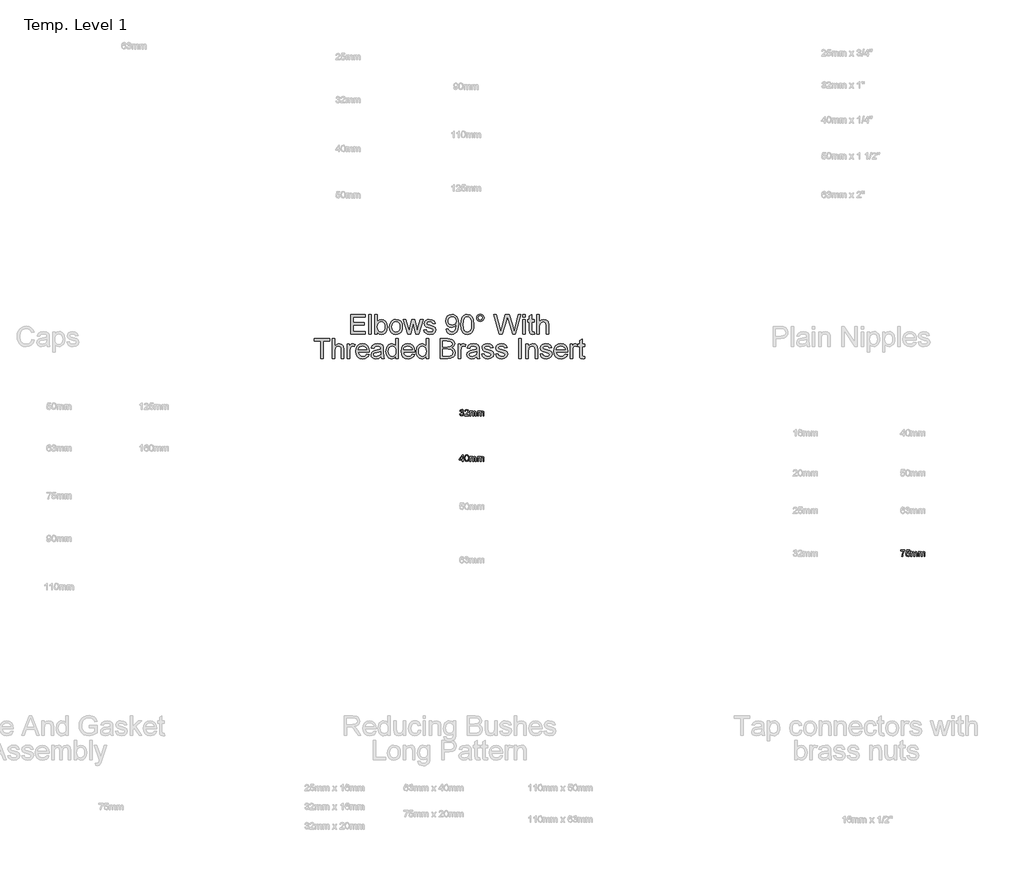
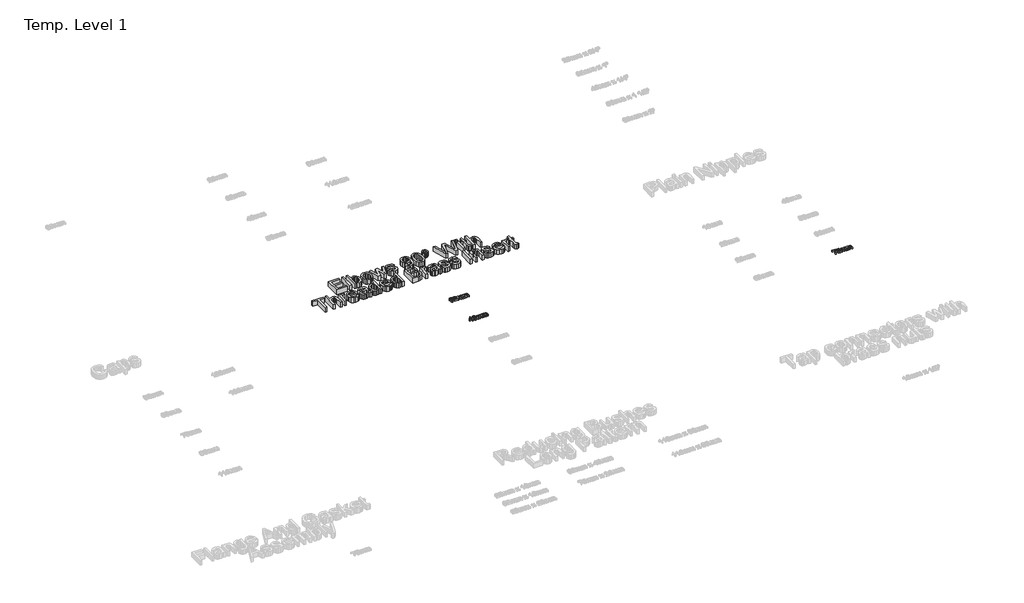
# One storey, part 52 of 62: 4 proxies.
"""IFC4 building model written with IfcOpenShell, lengths in millimetres."""

from ifc_helpers import new_model, si_unit, origin, origin_with_axes, place, context, project, spatial, polyline, outline, extrude, element, save

model = new_model("IFC4")

# Units and contexts
model_context = context("Model", 3, world=origin())
ifc_project = project(units=[si_unit("LENGTHUNIT", "METRE", prefix="MILLI")], contexts=[model_context])

# Site, building, storey
site = spatial("IfcSite", under=ifc_project)
building = spatial("IfcBuilding", under=site)
storey = spatial("IfcBuildingStorey", under=building, Name="Temp. Level 1", Elevation=0.0)

# Proxies
placement = place(None, origin())
element("IfcBuildingElementProxy", 1, Name="150mm Arial", ObjectType="150mm Arial", at=placement, inside=storey, context=model_context, shape_type="SweptSolid", body=[
    extrude(outline(polyline([(23683.0407135, -979.0446709), (23683.0407135, -831.3523632), (23789.1945596, -831.3523632), (23789.1945596, -849.8139016), (23701.5022519, -849.8139016), (23701.5022519, -893.6600555), (23784.579175, -893.6600555), (23784.579175, -912.1215939), (23701.5022519, -912.1215939), (23701.5022519, -960.5831324), (23791.5022519, -960.5831324), (23791.5022519, -979.0446709), (23683.0407135, -979.0446709)])), origin_with_axes(), (0.0, 0.0, 1.0), 50.0),
    extrude(outline(polyline([(23816.8868673, -979.0446709), (23816.8868673, -831.3523632), (23835.3484058, -831.3523632), (23835.3484058, -979.0446709), (23816.8868673, -979.0446709)])), origin_with_axes(), (0.0, 0.0, 1.0), 50.0),
    extrude(outline(polyline([(23881.5022519, -979.0446709), (23863.0407135, -979.0446709), (23863.0407135, -831.3523632), (23881.5022519, -831.3523632), (23881.5022519, -886.1239978), (23894.4289346, -872.7375795), (23910.4926365, -868.2754401), (23928.9902327, -872.2958728), (23943.3411942, -883.5999593), (23952.1573, -901.1780843), (23955.3484058, -923.1913055), (23952.0446197, -947.8367382), (23942.1332615, -966.1720747), (23927.5884899, -977.5572911), (23910.3844635, -981.3523632), (23893.969199, -976.4575314), (23881.5022519, -961.7730362), (23881.5022519, -979.0446709)]), holes=[polyline([(23881.5022519, -924.0566901), (23882.7642712, -939.4533247), (23886.5503288, -949.8739978), (23896.2228048, -959.636618), (23908.797925, -962.8908247), (23919.4529731, -960.4929882), (23928.5575404, -953.2994786), (23934.8045356, -941.355368), (23936.8868673, -924.7057286), (23934.8901726, -907.8126997), (23928.9000885, -896.0038055), (23920.0794755, -889.0536853), (23909.5911942, -886.7369786), (23898.9361462, -889.1348151), (23889.8315788, -896.3283247), (23883.5845837, -908.0560891), (23881.5022519, -924.0566901)])]), origin_with_axes(), (0.0, 0.0, 1.0), 50.0),
    extrude(outline(polyline([(23971.5022519, -924.8139016), (23975.4956413, -898.6630603), (23987.4758096, -880.2826516), (24002.2774923, -871.277243), (24019.9998481, -868.2754401), (24039.3943793, -871.9307887), (24054.8856654, -882.8968343), (24065.040413, -900.3081925), (24068.4253288, -923.2994786), (24066.9289346, -941.9503199), (24062.4397519, -956.1480362), (24055.0884899, -966.7805483), (24045.0058577, -974.7357766), (24033.0301966, -979.6982165), (24019.9998481, -981.3523632), (24000.3709418, -977.7105362), (23984.8976846, -966.7850555), (23974.8511101, -949.0086132), (23971.5022519, -924.8139016)]), holes=[polyline([(23989.9637904, -924.7778439), (23992.1002087, -941.4860771), (23998.5094635, -953.3896228), (24008.1548962, -960.5155242), (24019.9998481, -962.8908247), (24031.7907135, -960.5020026), (24041.4181173, -953.3355362), (24047.8273721, -941.2742382), (24049.9637904, -924.2009209), (24047.8138505, -907.9794665), (24041.3640308, -896.2381805), (24031.7231053, -889.112279), (24019.9998481, -886.7369786), (24008.1548962, -889.1032646), (23998.5094635, -896.2021228), (23992.1002087, -908.0786252), (23989.9637904, -924.7778439)])]), origin_with_axes(), (0.0, 0.0, 1.0), 50.0),
    extrude(outline(polyline([(24107.1873481, -979.0446709), (24074.1945596, -870.5831324), (24093.3772519, -870.5831324), (24112.0911942, -933.8643824), (24117.6801365, -956.4725555), (24122.2594635, -934.6937093), (24137.1512904, -870.5831324), (24159.1464827, -870.5831324), (24173.9661942, -934.5134209), (24178.0407135, -954.2369786), (24183.8820596, -933.4316901), (24202.6320596, -870.5831324), (24221.8868673, -870.5831324), (24188.641675, -979.0446709), (24166.3219635, -979.0446709), (24152.1512904, -915.4389016), (24148.0407135, -895.6071709), (24129.7594635, -979.0446709), (24107.1873481, -979.0446709)])), origin_with_axes(), (0.0, 0.0, 1.0), 50.0),
    extrude(outline(polyline([(24227.6560981, -946.7369786), (24246.1176365, -944.4292862), (24249.0292952, -952.3259209), (24254.6633096, -958.1312093), (24274.2426365, -962.8908247), (24293.0647519, -958.5278439), (24299.1945596, -948.2874593), (24293.0286942, -939.9941901), (24274.0262904, -934.729767), (24246.2258096, -925.6973151), (24234.0923962, -915.1504401), (24229.9637904, -900.2586132), (24233.2810981, -886.5026036), (24242.3315788, -875.9917862), (24254.0683577, -870.5290459), (24269.9517712, -868.2754401), (24292.4157135, -871.8992382), (24306.6945596, -881.7069305), (24313.0407135, -898.2754401), (24294.579175, -900.5831324), (24287.6380692, -890.3968343), (24271.3940788, -886.7369786), (24253.7258096, -890.2345747), (24248.4253288, -898.3836132), (24250.6248481, -903.7562093), (24257.5118673, -907.8307286), (24273.4133096, -911.761017), (24300.5106654, -920.4509209), (24313.0948, -930.2946709), (24317.6560981, -946.3403439), (24312.3015308, -964.0086132), (24296.8508096, -976.8271228), (24273.9902327, -981.3523632), (24255.375449, -979.1708728), (24241.7907135, -972.6264016), (24232.7222038, -961.7910651), (24227.6560981, -946.7369786)])), origin_with_axes(), (0.0, 0.0, 1.0), 50.0),
    extrude(outline(polyline([(24393.8099442, -942.1215939), (24412.2714827, -939.8139016), (24415.4265308, -950.2931685), (24420.5647519, -957.4280843), (24436.2859058, -962.8908247), (24451.2318192, -959.3751997), (24461.3640308, -949.9821709), (24467.4036942, -933.9364978), (24470.0719635, -912.5182286), (24469.9637904, -908.9124593), (24455.1981654, -922.9028439), (24434.9517712, -928.2754401), (24418.1173361, -924.9941901), (24404.1044154, -915.1504401), (24394.6527928, -899.9431084), (24391.5022519, -880.5711132), (24394.806038, -860.5590939), (24404.7173962, -844.8739978), (24419.6047159, -834.7327718), (24437.8363865, -831.3523632), (24451.6059178, -833.2814497), (24464.1404731, -839.0687093), (24474.6242471, -848.4256805), (24482.2414346, -861.0639016), (24486.8793553, -878.5338536), (24488.4253288, -902.386017), (24486.8838625, -927.675981), (24482.2594635, -947.2237574), (24474.5926966, -961.9127598), (24463.9241269, -972.6264016), (24450.7134899, -979.1708728), (24435.4205212, -981.3523632), (24419.6362663, -978.7787454), (24407.0431173, -971.057892), (24398.236026, -958.6765819), (24393.8099442, -942.1215939)]), holes=[polyline([(24469.9637904, -880.1384209), (24467.9716029, -867.6264016), (24461.9950404, -857.9989978), (24452.719199, -851.8601757), (24440.829175, -849.8139016), (24428.4974442, -852.0179281), (24418.6176365, -858.6300074), (24412.1272519, -868.7486973), (24409.9637904, -881.4725555), (24412.0100644, -892.8803079), (24418.1488865, -901.9352959), (24427.7853048, -907.8442502), (24440.3243673, -909.8139016), (24452.1197399, -907.8442502), (24461.6164346, -901.9352959), (24467.8769514, -892.5467742), (24469.9637904, -880.1384209)])]), origin_with_axes(), (0.0, 0.0, 1.0), 50.0),
    extrude(outline(polyline([(24504.579175, -906.3884209), (24505.9358457, -882.7480963), (24510.0058577, -863.8944305), (24516.7486462, -849.5389617), (24526.1236462, -839.3932286), (24538.1984659, -833.3625795), (24553.0407135, -831.3523632), (24574.6032135, -836.1119786), (24589.4950404, -849.8319305), (24598.1488865, -871.682892), (24601.5022519, -906.3884209), (24600.1591029, -929.893529), (24596.1296558, -948.7021228), (24589.4274322, -963.0711132), (24580.0659538, -973.2574112), (24567.9640909, -979.3286252), (24553.0407135, -981.3523632), (24533.8580212, -977.8367382), (24519.2907135, -967.2898632), (24508.2570596, -942.3108968), (24504.579175, -906.3884209)]), holes=[polyline([(24523.0407135, -906.3523632), (24525.204175, -935.3923271), (24531.6945596, -952.1997189), (24541.3580212, -960.2180483), (24553.0407135, -962.8908247), (24564.7234058, -960.2090338), (24574.3868673, -952.1636612), (24580.8772519, -935.347255), (24583.0407135, -906.3523632), (24580.9493673, -877.9659449), (24574.6753288, -861.0278439), (24565.0298962, -852.6173872), (24552.8243673, -849.8139016), (24541.2678769, -852.2838536), (24531.9830212, -859.6937093), (24525.2762904, -877.6864978), (24523.0407135, -906.3523632)])]), origin_with_axes(), (0.0, 0.0, 1.0), 50.0),
    extrude(outline(polyline([(24622.2714827, -856.7009209), (24624.3042351, -846.0548872), (24630.4024923, -837.1215939), (24639.3493072, -831.0639016), (24649.9277327, -829.0446709), (24660.6278529, -831.0639016), (24669.579175, -837.1215939), (24675.6368673, -846.0548872), (24677.6560981, -856.7009209), (24675.6233457, -867.3334329), (24669.5250885, -876.2982766), (24660.5602447, -882.3965338), (24649.9277327, -884.4292862), (24639.3493072, -882.4100555), (24630.4024923, -876.3523632), (24624.3042351, -867.4010411), (24622.2714827, -856.7009209)]), holes=[polyline([(24633.8099442, -856.7369786), (24638.5515308, -868.167267), (24649.9998481, -872.8908247), (24661.37605, -868.167267), (24666.1176365, -856.7369786), (24661.37605, -845.3066901), (24649.9998481, -840.5831324), (24638.5515308, -845.3066901), (24633.8099442, -856.7369786)])]), origin_with_axes(), (0.0, 0.0, 1.0), 50.0),
    extrude(outline(polyline([(24791.7786942, -979.0446709), (24751.5022519, -831.3523632), (24770.5407135, -831.3523632), (24793.9060981, -928.4196709), (24801.1176365, -958.3836132), (24808.8339827, -931.8812093), (24838.1128288, -831.3523632), (24865.5527327, -831.3523632), (24886.8267712, -904.2249593), (24902.6560981, -958.3836132), (24909.6512904, -929.2850555), (24933.2330212, -831.3523632), (24952.2714827, -831.3523632), (24911.9589827, -979.0446709), (24892.235425, -979.0446709), (24856.8267712, -865.1023632), (24851.8868673, -849.2009209), (24846.3339827, -868.3475555), (24814.0623481, -979.0446709), (24791.7786942, -979.0446709)])), origin_with_axes(), (0.0, 0.0, 1.0), 50.0),
    extrude(outline(polyline([(24968.4253288, -849.8139016), (24968.4253288, -831.3523632), (24986.8868673, -831.3523632), (24986.8868673, -849.8139016), (24968.4253288, -849.8139016)])), origin_with_axes(), (0.0, 0.0, 1.0), 50.0),
    extrude(outline(polyline([(24968.4253288, -979.0446709), (24968.4253288, -870.5831324), (24986.8868673, -870.5831324), (24986.8868673, -979.0446709), (24968.4253288, -979.0446709)])), origin_with_axes(), (0.0, 0.0, 1.0), 50.0),
    extrude(outline(polyline([(25053.8099442, -963.6480362), (25056.1176365, -979.5855362), (25042.3075404, -981.3523632), (25026.8387904, -978.2874593), (25019.1224442, -970.2465939), (25016.8868673, -949.2970747), (25016.8868673, -889.0446709), (25003.0407135, -889.0446709), (25003.0407135, -870.5831324), (25016.8868673, -870.5831324), (25016.8868673, -844.2249593), (25035.3484058, -833.3715939), (25035.3484058, -870.5831324), (25053.8099442, -870.5831324), (25053.8099442, -889.0446709), (25035.3484058, -889.0446709), (25035.3484058, -948.7562093), (25036.3219635, -958.2754401), (25039.4770115, -961.6468343), (25045.7690788, -962.8908247), (25053.8099442, -963.6480362)])), origin_with_axes(), (0.0, 0.0, 1.0), 50.0),
    extrude(outline(polyline([(25072.2714827, -979.0446709), (25072.2714827, -831.3523632), (25090.7330212, -831.3523632), (25090.7330212, -885.6552478), (25105.1290548, -872.620392), (25122.860425, -868.2754401), (25143.5935981, -873.0170266), (25156.1777327, -886.1239978), (25159.9637904, -910.3908247), (25159.9637904, -979.0446709), (25141.5022519, -979.0446709), (25141.5022519, -912.3018824), (25140.032901, -900.745392), (25135.6248481, -892.8307286), (25128.5214827, -888.2604161), (25118.9661942, -886.7369786), (25103.8399923, -890.8475555), (25093.7438385, -901.9893824), (25090.7330212, -921.4244786), (25090.7330212, -979.0446709), (25072.2714827, -979.0446709)])), origin_with_axes(), (0.0, 0.0, 1.0), 50.0),
    extrude(outline(polyline([(23458.0407135, -1161.3523632), (23458.0407135, -1032.1215939), (23409.579175, -1032.1215939), (23409.579175, -1013.6600555), (23524.9637904, -1013.6600555), (23524.9637904, -1032.1215939), (23476.5022519, -1032.1215939), (23476.5022519, -1161.3523632), (23458.0407135, -1161.3523632)])), origin_with_axes(), (0.0, 0.0, 1.0), 50.0),
    extrude(outline(polyline([(23543.4253288, -1161.3523632), (23543.4253288, -1013.6600555), (23561.8868673, -1013.6600555), (23561.8868673, -1067.9629401), (23576.282901, -1054.9280843), (23594.0142712, -1050.5831324), (23614.7474442, -1055.3247189), (23627.3315788, -1068.4316901), (23631.1176365, -1092.698517), (23631.1176365, -1161.3523632), (23612.6560981, -1161.3523632), (23612.6560981, -1094.6095747), (23611.1867471, -1083.0530843), (23606.7786942, -1075.1384209), (23599.6753288, -1070.5681084), (23590.1200404, -1069.0446709), (23574.9938385, -1073.1552478), (23564.8976846, -1084.2970747), (23561.8868673, -1103.7321709), (23561.8868673, -1161.3523632), (23543.4253288, -1161.3523632)])), origin_with_axes(), (0.0, 0.0, 1.0), 50.0),
    extrude(outline(polyline([(23656.5022519, -1161.3523632), (23656.5022519, -1052.8908247), (23672.6560981, -1052.8908247), (23672.6560981, -1068.9364978), (23684.1224442, -1054.1528439), (23695.6609058, -1050.5831324), (23714.1945596, -1056.2802478), (23708.0286942, -1072.8307286), (23695.047925, -1069.0446709), (23684.6092231, -1072.6864978), (23677.9565788, -1082.7826516), (23674.9637904, -1104.3451516), (23674.9637904, -1161.3523632), (23656.5022519, -1161.3523632)])), origin_with_axes(), (0.0, 0.0, 1.0), 50.0),
    extrude(outline(polyline([(23801.6705212, -1129.0446709), (23819.7714827, -1131.3523632), (23813.2495476, -1144.9911853), (23802.8423962, -1155.1864978), (23788.7844034, -1161.5416661), (23771.3099442, -1163.6600555), (23749.6482856, -1160.0047069), (23732.9806173, -1149.0386612), (23722.3526125, -1131.4740579), (23718.8099442, -1108.0230362), (23722.3886702, -1083.7832526), (23733.1248481, -1065.6552478), (23749.5671558, -1054.3511612), (23770.2642712, -1050.5831324), (23790.3168553, -1054.3421468), (23806.3399923, -1065.6191901), (23816.8463024, -1083.7111372), (23820.3484058, -1107.9148632), (23820.2402327, -1112.8908247), (23737.2714827, -1112.8908247), (23740.4670957, -1126.7099353), (23747.8904731, -1136.8691901), (23758.6041149, -1143.1161853), (23771.6705212, -1145.198517), (23789.7714827, -1141.3403439), (23801.6705212, -1129.0446709)]), holes=[polyline([(23737.2714827, -1094.4292862), (23801.8868673, -1094.4292862), (23799.3898721, -1084.6756805), (23794.4950404, -1077.698517), (23783.7318192, -1071.2081324), (23770.1921558, -1069.0446709), (23757.7477447, -1070.7709329), (23747.4577808, -1075.9497189), (23740.3048361, -1084.0221348), (23737.2714827, -1094.4292862)])]), origin_with_axes(), (0.0, 0.0, 1.0), 50.0),
    extrude(outline(polyline([(23908.0407135, -1147.5062093), (23890.1380692, -1160.0182286), (23870.360425, -1163.6600555), (23854.9322399, -1161.4695507), (23843.5515308, -1154.8980362), (23836.5338024, -1144.9190699), (23834.1945596, -1132.5062093), (23837.7282135, -1117.9028439), (23847.0130692, -1107.3018824), (23859.9397519, -1101.2441901), (23875.9133096, -1098.4677478), (23907.9325404, -1092.1215939), (23908.0407135, -1088.011017), (23906.7696798, -1079.7718343), (23902.9565788, -1074.3812093), (23894.4289346, -1070.3788055), (23882.547925, -1069.0446709), (23863.8700404, -1072.5963536), (23854.9637904, -1085.198517), (23836.5022519, -1082.8908247), (23844.4890308, -1064.8619786), (23860.5707615, -1054.2970747), (23884.9277327, -1050.5831324), (23907.3015308, -1053.8643824), (23919.9397519, -1062.1035651), (23925.6008096, -1074.6336132), (23926.5022519, -1090.7874593), (23926.5022519, -1113.7562093), (23927.4397519, -1145.8295266), (23931.1176365, -1161.3523632), (23912.6560981, -1161.3523632), (23908.0407135, -1147.5062093)]), holes=[polyline([(23908.0407135, -1110.5831324), (23878.2570596, -1116.2441901), (23862.3736462, -1119.2369786), (23855.1801365, -1124.104767), (23852.6560981, -1131.2081324), (23858.1548962, -1141.1961132), (23874.2907135, -1145.198517), (23892.9685981, -1140.7814497), (23905.0118673, -1130.0903439), (23907.9325404, -1115.8114978), (23908.0407135, -1110.5831324)])]), origin_with_axes(), (0.0, 0.0, 1.0), 50.0),
    extrude(outline(polyline([(24018.8099442, -1161.3523632), (24018.8099442, -1143.9364978), (24006.595401, -1158.7291661), (23989.7113865, -1163.6600555), (23977.7762904, -1161.8751997), (23966.8508096, -1156.5206324), (23957.6020115, -1147.9704521), (23950.6969635, -1136.5987574), (23946.3970837, -1122.8652838), (23944.9637904, -1107.229767), (23950.2462423, -1077.8427478), (23956.8448, -1066.1870987), (23966.0755692, -1057.6143824), (23977.2399322, -1052.3409449), (23989.6392712, -1050.5831324), (24006.6585019, -1055.6131805), (24018.8099442, -1068.6840939), (24018.8099442, -1013.6600555), (24037.2714827, -1013.6600555), (24037.2714827, -1161.3523632), (24018.8099442, -1161.3523632)]), holes=[polyline([(23963.4253288, -1107.1576516), (23965.5076606, -1123.8568704), (23971.7546558, -1135.7333728), (23980.8321798, -1142.832231), (23991.4060981, -1145.198517), (24001.9755091, -1142.940404), (24010.8231654, -1136.1660651), (24016.8132495, -1124.7492983), (24018.8099442, -1108.5639016), (24016.7771918, -1090.8685891), (24010.6789346, -1078.5999593), (24001.6059178, -1071.433493), (23990.6488865, -1069.0446709), (23979.9667952, -1071.3388415), (23971.2137904, -1078.2213536), (23965.3724442, -1090.0437694), (23963.4253288, -1107.1576516)])]), origin_with_axes(), (0.0, 0.0, 1.0), 50.0),
    extrude(outline(polyline([(24140.9012904, -1129.0446709), (24159.0022519, -1131.3523632), (24152.4803168, -1144.9911853), (24142.0731654, -1155.1864978), (24128.0151726, -1161.5416661), (24110.5407135, -1163.6600555), (24088.8790548, -1160.0047069), (24072.2113865, -1149.0386612), (24061.5833817, -1131.4740579), (24058.0407135, -1108.0230362), (24061.6194394, -1083.7832526), (24072.3556173, -1065.6552478), (24088.797925, -1054.3511612), (24109.4950404, -1050.5831324), (24129.5476245, -1054.3421468), (24145.5707615, -1065.6191901), (24156.0770716, -1083.7111372), (24159.579175, -1107.9148632), (24159.4710019, -1112.8908247), (24076.5022519, -1112.8908247), (24079.6978649, -1126.7099353), (24087.1212423, -1136.8691901), (24097.8348841, -1143.1161853), (24110.9012904, -1145.198517), (24129.0022519, -1141.3403439), (24140.9012904, -1129.0446709)]), holes=[polyline([(24076.5022519, -1094.4292862), (24141.1176365, -1094.4292862), (24138.6206413, -1084.6756805), (24133.7258096, -1077.698517), (24122.9625885, -1071.2081324), (24109.422925, -1069.0446709), (24096.9785139, -1070.7709329), (24086.68855, -1075.9497189), (24079.5356053, -1084.0221348), (24076.5022519, -1094.4292862)])]), origin_with_axes(), (0.0, 0.0, 1.0), 50.0),
    extrude(outline(polyline([(24244.9637904, -1161.3523632), (24244.9637904, -1143.9364978), (24232.7492471, -1158.7291661), (24215.8652327, -1163.6600555), (24203.9301365, -1161.8751997), (24193.0046558, -1156.5206324), (24183.7558577, -1147.9704521), (24176.8508096, -1136.5987574), (24172.5509298, -1122.8652838), (24171.1176365, -1107.229767), (24176.4000885, -1077.8427478), (24182.9986462, -1066.1870987), (24192.2294154, -1057.6143824), (24203.3937784, -1052.3409449), (24215.7931173, -1050.5831324), (24232.8123481, -1055.6131805), (24244.9637904, -1068.6840939), (24244.9637904, -1013.6600555), (24263.4253288, -1013.6600555), (24263.4253288, -1161.3523632), (24244.9637904, -1161.3523632)]), holes=[polyline([(24189.579175, -1107.1576516), (24191.6615067, -1123.8568704), (24197.9085019, -1135.7333728), (24206.986026, -1142.832231), (24217.5599442, -1145.198517), (24228.1293553, -1142.940404), (24236.9770115, -1136.1660651), (24242.9670957, -1124.7492983), (24244.9637904, -1108.5639016), (24242.931038, -1090.8685891), (24236.8327808, -1078.5999593), (24227.7597639, -1071.433493), (24216.8027327, -1069.0446709), (24206.1206413, -1071.3388415), (24197.3676365, -1078.2213536), (24191.5262904, -1090.0437694), (24189.579175, -1107.1576516)])]), origin_with_axes(), (0.0, 0.0, 1.0), 50.0),
    extrude(outline(polyline([(24351.1176365, -1161.3523632), (24351.1176365, -1013.6600555), (24407.4758096, -1013.6600555), (24435.0779731, -1018.0050074), (24444.3538144, -1023.5173271), (24451.37605, -1031.3643824), (24457.2714827, -1050.2586132), (24452.31355, -1067.5122189), (24437.3315788, -1080.5831324), (24447.7928168, -1086.0458728), (24455.5226846, -1094.3571709), (24460.2958216, -1104.9671468), (24461.8868673, -1117.3259209), (24457.5419154, -1137.1756805), (24446.7786942, -1151.3102959), (24430.7149923, -1158.8102959), (24407.0431173, -1161.3523632), (24351.1176365, -1161.3523632)]), holes=[polyline([(24369.579175, -1142.8908247), (24407.4397519, -1142.8908247), (24421.141675, -1142.1696709), (24432.7342231, -1138.1492382), (24440.4145115, -1129.9461132), (24443.4253288, -1117.5062093), (24439.891675, -1103.1552478), (24428.4433577, -1094.5915459), (24405.6368673, -1092.1215939), (24369.579175, -1092.1215939), (24369.579175, -1142.8908247)]), polyline([(24369.579175, -1073.6600555), (24403.2931173, -1073.6600555), (24422.9806173, -1072.073517), (24434.8255692, -1065.2405843), (24438.8099442, -1053.2153439), (24435.0960019, -1041.1720747), (24424.4589827, -1034.0506805), (24400.7330212, -1032.1215939), (24369.579175, -1032.1215939), (24369.579175, -1073.6600555)])]), origin_with_axes(), (0.0, 0.0, 1.0), 50.0),
    extrude(outline(polyline([(24484.9637904, -1161.3523632), (24484.9637904, -1052.8908247), (24501.1176365, -1052.8908247), (24501.1176365, -1068.9364978), (24512.5839827, -1054.1528439), (24524.1224442, -1050.5831324), (24542.6560981, -1056.2802478), (24536.4902327, -1072.8307286), (24523.5094635, -1069.0446709), (24513.0707615, -1072.6864978), (24506.4181173, -1082.7826516), (24503.4253288, -1104.3451516), (24503.4253288, -1161.3523632), (24484.9637904, -1161.3523632)])), origin_with_axes(), (0.0, 0.0, 1.0), 50.0),
    extrude(outline(polyline([(24623.4253288, -1147.5062093), (24605.5226846, -1160.0182286), (24585.7450404, -1163.6600555), (24570.3168553, -1161.4695507), (24558.9361462, -1154.8980362), (24551.9184178, -1144.9190699), (24549.579175, -1132.5062093), (24553.1128288, -1117.9028439), (24562.3976846, -1107.3018824), (24575.3243673, -1101.2441901), (24591.297925, -1098.4677478), (24623.3171558, -1092.1215939), (24623.4253288, -1088.011017), (24622.1542952, -1079.7718343), (24618.3411942, -1074.3812093), (24609.81355, -1070.3788055), (24597.9325404, -1069.0446709), (24579.2546558, -1072.5963536), (24570.3484058, -1085.198517), (24551.8868673, -1082.8908247), (24559.8736462, -1064.8619786), (24575.9553769, -1054.2970747), (24600.3123481, -1050.5831324), (24622.6861462, -1053.8643824), (24635.3243673, -1062.1035651), (24640.985425, -1074.6336132), (24641.8868673, -1090.7874593), (24641.8868673, -1113.7562093), (24642.8243673, -1145.8295266), (24646.5022519, -1161.3523632), (24628.0407135, -1161.3523632), (24623.4253288, -1147.5062093)]), holes=[polyline([(24623.4253288, -1110.5831324), (24593.641675, -1116.2441901), (24577.7582615, -1119.2369786), (24570.5647519, -1124.104767), (24568.0407135, -1131.2081324), (24573.5395115, -1141.1961132), (24589.6753288, -1145.198517), (24608.3532135, -1140.7814497), (24620.3964827, -1130.0903439), (24623.3171558, -1115.8114978), (24623.4253288, -1110.5831324)])]), origin_with_axes(), (0.0, 0.0, 1.0), 50.0),
    extrude(outline(polyline([(24660.3484058, -1129.0446709), (24678.8099442, -1126.7369786), (24681.7216029, -1134.6336132), (24687.3556173, -1140.4389016), (24706.9349442, -1145.198517), (24725.7570596, -1140.8355362), (24731.8868673, -1130.5951516), (24725.7210019, -1122.3018824), (24706.7185981, -1117.0374593), (24678.9181173, -1108.0050074), (24666.7847038, -1097.4581324), (24662.6560981, -1082.5663055), (24665.9734058, -1068.8102959), (24675.0238865, -1058.2994786), (24686.7606654, -1052.8367382), (24702.6440788, -1050.5831324), (24725.1080212, -1054.2069305), (24739.3868673, -1064.0146228), (24745.7330212, -1080.5831324), (24727.2714827, -1082.8908247), (24720.3303769, -1072.7045266), (24704.0863865, -1069.0446709), (24686.4181173, -1072.542267), (24681.1176365, -1080.6913055), (24683.3171558, -1086.0639016), (24690.204175, -1090.1384209), (24706.1056173, -1094.0687093), (24733.2029731, -1102.7586132), (24745.7871077, -1112.6023632), (24750.3484058, -1128.6480362), (24744.9938385, -1146.3163055), (24729.5431173, -1159.1348151), (24706.6825404, -1163.6600555), (24688.0677567, -1161.4785651), (24674.4830212, -1154.9340939), (24665.4145115, -1144.0987574), (24660.3484058, -1129.0446709)])), origin_with_axes(), (0.0, 0.0, 1.0), 50.0),
    extrude(outline(polyline([(24764.1945596, -1129.0446709), (24782.6560981, -1126.7369786), (24785.5677567, -1134.6336132), (24791.2017712, -1140.4389016), (24810.7810981, -1145.198517), (24829.6032135, -1140.8355362), (24835.7330212, -1130.5951516), (24829.5671558, -1122.3018824), (24810.5647519, -1117.0374593), (24782.7642712, -1108.0050074), (24770.6308577, -1097.4581324), (24766.5022519, -1082.5663055), (24769.8195596, -1068.8102959), (24778.8700404, -1058.2994786), (24790.6068192, -1052.8367382), (24806.4902327, -1050.5831324), (24828.954175, -1054.2069305), (24843.2330212, -1064.0146228), (24849.579175, -1080.5831324), (24831.1176365, -1082.8908247), (24824.1765308, -1072.7045266), (24807.9325404, -1069.0446709), (24790.2642712, -1072.542267), (24784.9637904, -1080.6913055), (24787.1633096, -1086.0639016), (24794.0503288, -1090.1384209), (24809.9517712, -1094.0687093), (24837.0491269, -1102.7586132), (24849.6332615, -1112.6023632), (24854.1945596, -1128.6480362), (24848.8399923, -1146.3163055), (24833.3892712, -1159.1348151), (24810.5286942, -1163.6600555), (24791.9139106, -1161.4785651), (24778.329175, -1154.9340939), (24769.2606654, -1144.0987574), (24764.1945596, -1129.0446709)])), origin_with_axes(), (0.0, 0.0, 1.0), 50.0),
    extrude(outline(polyline([(24937.2714827, -1161.3523632), (24937.2714827, -1013.6600555), (24955.7330212, -1013.6600555), (24955.7330212, -1161.3523632), (24937.2714827, -1161.3523632)])), origin_with_axes(), (0.0, 0.0, 1.0), 50.0),
    extrude(outline(polyline([(24990.3484058, -1161.3523632), (24990.3484058, -1052.8908247), (25008.8099442, -1052.8908247), (25008.8099442, -1068.0350555), (25022.9265308, -1054.9461132), (25042.1993673, -1050.5831324), (25059.6332615, -1054.0987574), (25071.5323, -1063.3295266), (25077.0671558, -1076.9052478), (25078.0407135, -1094.7538055), (25078.0407135, -1161.3523632), (25059.579175, -1161.3523632), (25059.579175, -1097.2417862), (25057.4517712, -1080.9076516), (25049.9337423, -1072.2718343), (25037.2594635, -1069.0446709), (25026.446663, -1070.8565699), (25017.2294154, -1076.292267), (25010.914812, -1086.7940699), (25008.8099442, -1103.8042862), (25008.8099442, -1161.3523632), (24990.3484058, -1161.3523632)])), origin_with_axes(), (0.0, 0.0, 1.0), 50.0),
    extrude(outline(polyline([(25096.5022519, -1129.0446709), (25114.9637904, -1126.7369786), (25117.875449, -1134.6336132), (25123.5094635, -1140.4389016), (25143.0887904, -1145.198517), (25161.9109058, -1140.8355362), (25168.0407135, -1130.5951516), (25161.8748481, -1122.3018824), (25142.8724442, -1117.0374593), (25115.0719635, -1108.0050074), (25102.93855, -1097.4581324), (25098.8099442, -1082.5663055), (25102.1272519, -1068.8102959), (25111.1777327, -1058.2994786), (25122.9145115, -1052.8367382), (25138.797925, -1050.5831324), (25161.2618673, -1054.2069305), (25175.5407135, -1064.0146228), (25181.8868673, -1080.5831324), (25163.4253288, -1082.8908247), (25156.4842231, -1072.7045266), (25140.2402327, -1069.0446709), (25122.5719635, -1072.542267), (25117.2714827, -1080.6913055), (25119.4710019, -1086.0639016), (25126.3580212, -1090.1384209), (25142.2594635, -1094.0687093), (25169.3568192, -1102.7586132), (25181.9409538, -1112.6023632), (25186.5022519, -1128.6480362), (25181.1476846, -1146.3163055), (25165.6969635, -1159.1348151), (25142.8363865, -1163.6600555), (25124.2216029, -1161.4785651), (25110.6368673, -1154.9340939), (25101.5683577, -1144.0987574), (25096.5022519, -1129.0446709)])), origin_with_axes(), (0.0, 0.0, 1.0), 50.0),
    extrude(outline(polyline([(25283.2089827, -1129.0446709), (25301.3099442, -1131.3523632), (25294.7880091, -1144.9911853), (25284.3808577, -1155.1864978), (25270.3228649, -1161.5416661), (25252.8484058, -1163.6600555), (25231.1867471, -1160.0047069), (25214.5190788, -1149.0386612), (25203.891074, -1131.4740579), (25200.3484058, -1108.0230362), (25203.9271317, -1083.7832526), (25214.6633096, -1065.6552478), (25231.1056173, -1054.3511612), (25251.8027327, -1050.5831324), (25271.8553168, -1054.3421468), (25287.8784538, -1065.6191901), (25298.3847639, -1083.7111372), (25301.8868673, -1107.9148632), (25301.7786942, -1112.8908247), (25218.8099442, -1112.8908247), (25222.0055572, -1126.7099353), (25229.4289346, -1136.8691901), (25240.1425764, -1143.1161853), (25253.2089827, -1145.198517), (25271.3099442, -1141.3403439), (25283.2089827, -1129.0446709)]), holes=[polyline([(25218.8099442, -1094.4292862), (25283.4253288, -1094.4292862), (25280.9283337, -1084.6756805), (25276.0335019, -1077.698517), (25265.2702808, -1071.2081324), (25251.7306173, -1069.0446709), (25239.2862063, -1070.7709329), (25228.9962423, -1075.9497189), (25221.8432976, -1084.0221348), (25218.8099442, -1094.4292862)])]), origin_with_axes(), (0.0, 0.0, 1.0), 50.0),
    extrude(outline(polyline([(25320.3484058, -1161.3523632), (25320.3484058, -1052.8908247), (25336.5022519, -1052.8908247), (25336.5022519, -1068.9364978), (25347.9685981, -1054.1528439), (25359.5070596, -1050.5831324), (25378.0407135, -1056.2802478), (25371.8748481, -1072.8307286), (25358.8940788, -1069.0446709), (25348.4553769, -1072.6864978), (25341.8027327, -1082.7826516), (25338.8099442, -1104.3451516), (25338.8099442, -1161.3523632), (25320.3484058, -1161.3523632)])), origin_with_axes(), (0.0, 0.0, 1.0), 50.0),
    extrude(outline(polyline([(25428.8099442, -1145.9557286), (25431.1176365, -1161.8932286), (25417.3075404, -1163.6600555), (25401.8387904, -1160.5951516), (25394.1224442, -1152.5542862), (25391.8868673, -1131.604767), (25391.8868673, -1071.3523632), (25378.0407135, -1071.3523632), (25378.0407135, -1052.8908247), (25391.8868673, -1052.8908247), (25391.8868673, -1026.5326516), (25410.3484058, -1015.6792862), (25410.3484058, -1052.8908247), (25428.8099442, -1052.8908247), (25428.8099442, -1071.3523632), (25410.3484058, -1071.3523632), (25410.3484058, -1131.0639016), (25411.3219635, -1140.5831324), (25414.4770115, -1143.9545266), (25420.7690788, -1145.198517), (25428.8099442, -1145.9557286)])), origin_with_axes(), (0.0, 0.0, 1.0), 50.0),
])
element("IfcBuildingElementProxy", 2, Name="50mm Arial", ObjectType="50mm Arial", at=placement, inside=storey, context=model_context, shape_type="SweptSolid", body=[
    extrude(outline(polyline([(24495.3245939, -1577.1215939), (24501.4784401, -1576.3523632), (24504.8738727, -1582.8307286), (24511.2260362, -1584.8139016), (24518.7019977, -1582.0855362), (24521.4784401, -1575.3307286), (24518.7260362, -1568.9665459), (24511.7308439, -1566.448517), (24507.4159401, -1567.1215939), (24508.1010362, -1560.9677478), (24516.0697862, -1559.2730362), (24519.1707477, -1553.8403439), (24516.9231516, -1549.026642), (24511.1298824, -1547.1215939), (24505.2644977, -1549.0446709), (24502.2476708, -1554.8139016), (24496.0938247, -1554.0446709), (24501.1298824, -1544.3932286), (24510.9135362, -1540.9677478), (24518.3354112, -1542.6564497), (24523.5277189, -1547.2718343), (24525.3245939, -1553.479767), (24523.6178631, -1559.1528439), (24518.5697862, -1563.2273632), (24525.276517, -1567.4340939), (24527.6322862, -1575.4389016), (24522.9207477, -1586.448517), (24511.0096901, -1590.9677478), (24500.2164208, -1587.1095747), (24495.3245939, -1577.1215939)])), origin_with_axes(), (0.0, 0.0, 1.0), 15.0),
    extrude(outline(polyline([(24564.5553631, -1584.0446709), (24564.5553631, -1590.198517), (24532.2476708, -1590.198517), (24532.9087285, -1585.9557286), (24536.6467093, -1579.4232766), (24544.3510362, -1572.2898632), (24554.9760362, -1562.0374593), (24557.6322862, -1555.0663055), (24555.1262766, -1549.4232766), (24548.5818054, -1547.1215939), (24541.760892, -1549.3691901), (24539.1707477, -1555.5831324), (24533.0169016, -1554.8139016), (24537.7344497, -1544.5134209), (24548.714017, -1540.9677478), (24559.729642, -1544.9100555), (24563.7861324, -1554.6937093), (24562.6923824, -1560.5290459), (24559.0565651, -1566.5626997), (24550.2404593, -1574.9941901), (24543.1611324, -1580.9136612), (24540.3846901, -1584.0446709), (24564.5553631, -1584.0446709)])), origin_with_axes(), (0.0, 0.0, 1.0), 15.0),
    extrude(outline(polyline([(24572.2476708, -1590.198517), (24572.2476708, -1554.0446709), (24578.401517, -1554.0446709), (24578.401517, -1559.9941901), (24582.6322862, -1555.120392), (24588.6539208, -1553.2754401), (24594.8197862, -1555.1564497), (24598.2092093, -1560.4268824), (24603.010892, -1555.0633007), (24609.0745939, -1553.2754401), (24617.1214689, -1556.2501997), (24619.9399785, -1565.4148632), (24619.9399785, -1590.198517), (24613.7861324, -1590.198517), (24613.7861324, -1568.0590939), (24613.2152189, -1562.9208728), (24611.1479112, -1560.3908247), (24607.6322862, -1559.4292862), (24601.5806035, -1561.8932286), (24599.1707477, -1569.7898632), (24599.1707477, -1590.198517), (24593.0169016, -1590.198517), (24593.0169016, -1567.3739978), (24591.5926227, -1561.4124593), (24586.9231516, -1559.4292862), (24582.3678631, -1560.7514016), (24579.339017, -1564.6215939), (24578.401517, -1571.9653439), (24578.401517, -1590.198517), (24572.2476708, -1590.198517)])), origin_with_axes(), (0.0, 0.0, 1.0), 15.0),
    extrude(outline(polyline([(24629.1707477, -1590.198517), (24629.1707477, -1554.0446709), (24635.3245939, -1554.0446709), (24635.3245939, -1559.9941901), (24639.5553631, -1555.120392), (24645.5769977, -1553.2754401), (24651.7428631, -1555.1564497), (24655.1322862, -1560.4268824), (24659.9339689, -1555.0633007), (24665.9976708, -1553.2754401), (24674.0445458, -1556.2501997), (24676.8630554, -1565.4148632), (24676.8630554, -1590.198517), (24670.7092093, -1590.198517), (24670.7092093, -1568.0590939), (24670.1382958, -1562.9208728), (24668.0709881, -1560.3908247), (24664.5553631, -1559.4292862), (24658.5036804, -1561.8932286), (24656.0938247, -1569.7898632), (24656.0938247, -1590.198517), (24649.9399785, -1590.198517), (24649.9399785, -1567.3739978), (24648.5156997, -1561.4124593), (24643.8462285, -1559.4292862), (24639.2909401, -1560.7514016), (24636.2620939, -1564.6215939), (24635.3245939, -1571.9653439), (24635.3245939, -1590.198517), (24629.1707477, -1590.198517)])), origin_with_axes(), (0.0, 0.0, 1.0), 15.0),
])
element("IfcBuildingElementProxy", 3, Name="50mm Arial", ObjectType="50mm Arial", at=placement, inside=storey, context=model_context, shape_type="SweptSolid", body=[
    extrude(outline(polyline([(24515.3245939, -1930.198517), (24515.3245939, -1918.6600555), (24493.0169016, -1918.6600555), (24493.0169016, -1912.5062093), (24516.8630554, -1881.7369786), (24521.4784401, -1881.7369786), (24521.4784401, -1912.5062093), (24527.6322862, -1912.5062093), (24527.6322862, -1918.6600555), (24521.4784401, -1918.6600555), (24521.4784401, -1930.198517), (24515.3245939, -1930.198517)]), holes=[polyline([(24515.3245939, -1912.5062093), (24515.3245939, -1893.4917862), (24500.589017, -1912.5062093), (24515.3245939, -1912.5062093)])]), origin_with_axes(), (0.0, 0.0, 1.0), 15.0),
    extrude(outline(polyline([(24533.0169016, -1905.979767), (24534.8257958, -1891.8151036), (24540.198392, -1883.6480362), (24549.1707477, -1880.9677478), (24556.3582477, -1882.5542862), (24561.3221901, -1887.1276036), (24564.2068054, -1894.4112574), (24565.3245939, -1905.979767), (24563.5337285, -1920.0843343), (24558.1791612, -1928.2694305), (24549.1707477, -1930.9677478), (24537.9207477, -1926.2802478), (24534.2428631, -1917.9539257), (24533.0169016, -1905.979767)]), holes=[polyline([(24539.1707477, -1905.9677478), (24542.0553631, -1921.2501997), (24549.1707477, -1924.8139016), (24556.2861324, -1921.2381805), (24559.1707477, -1905.9677478), (24556.3822862, -1890.8595747), (24549.0986324, -1887.1215939), (24542.151517, -1890.4148632), (24539.1707477, -1905.9677478)])]), origin_with_axes(), (0.0, 0.0, 1.0), 15.0),
    extrude(outline(polyline([(24572.2476708, -1930.198517), (24572.2476708, -1894.0446709), (24578.401517, -1894.0446709), (24578.401517, -1899.9941901), (24582.6322862, -1895.120392), (24588.6539208, -1893.2754401), (24594.8197862, -1895.1564497), (24598.2092093, -1900.4268824), (24603.010892, -1895.0633007), (24609.0745939, -1893.2754401), (24617.1214689, -1896.2501997), (24619.9399785, -1905.4148632), (24619.9399785, -1930.198517), (24613.7861324, -1930.198517), (24613.7861324, -1908.0590939), (24613.2152189, -1902.9208728), (24611.1479112, -1900.3908247), (24607.6322862, -1899.4292862), (24601.5806035, -1901.8932286), (24599.1707477, -1909.7898632), (24599.1707477, -1930.198517), (24593.0169016, -1930.198517), (24593.0169016, -1907.3739978), (24591.5926227, -1901.4124593), (24586.9231516, -1899.4292862), (24582.3678631, -1900.7514016), (24579.339017, -1904.6215939), (24578.401517, -1911.9653439), (24578.401517, -1930.198517), (24572.2476708, -1930.198517)])), origin_with_axes(), (0.0, 0.0, 1.0), 15.0),
    extrude(outline(polyline([(24629.1707477, -1930.198517), (24629.1707477, -1894.0446709), (24635.3245939, -1894.0446709), (24635.3245939, -1899.9941901), (24639.5553631, -1895.120392), (24645.5769977, -1893.2754401), (24651.7428631, -1895.1564497), (24655.1322862, -1900.4268824), (24659.9339689, -1895.0633007), (24665.9976708, -1893.2754401), (24674.0445458, -1896.2501997), (24676.8630554, -1905.4148632), (24676.8630554, -1930.198517), (24670.7092093, -1930.198517), (24670.7092093, -1908.0590939), (24670.1382958, -1902.9208728), (24668.0709881, -1900.3908247), (24664.5553631, -1899.4292862), (24658.5036804, -1901.8932286), (24656.0938247, -1909.7898632), (24656.0938247, -1930.198517), (24649.9399785, -1930.198517), (24649.9399785, -1907.3739978), (24648.5156997, -1901.4124593), (24643.8462285, -1899.4292862), (24639.2909401, -1900.7514016), (24636.2620939, -1904.6215939), (24635.3245939, -1911.9653439), (24635.3245939, -1930.198517), (24629.1707477, -1930.198517)])), origin_with_axes(), (0.0, 0.0, 1.0), 15.0),
])
element("IfcBuildingElementProxy", 4, Name="50mm Arial", ObjectType="50mm Arial", at=placement, inside=storey, context=model_context, shape_type="SweptSolid", body=[
    extrude(outline(polyline([(27790.226047, -2598.0445143), (27790.226047, -2591.8906682), (27822.5337393, -2591.8906682), (27822.5337393, -2596.8666297), (27813.3690758, -2610.1058124), (27806.3558547, -2626.9748028), (27804.0722008, -2640.3522066), (27797.9183547, -2640.3522066), (27800.3642681, -2626.4699951), (27807.0770085, -2610.7788893), (27816.3798931, -2598.0445143), (27790.226047, -2598.0445143)])), origin_with_axes(), (0.0, 0.0, 1.0), 15.0),
    extrude(outline(polyline([(27827.9183547, -2627.2752835), (27834.0722008, -2626.5060528), (27837.1731624, -2632.846197), (27843.6034508, -2634.9675912), (27851.319797, -2632.0168701), (27854.0722008, -2624.1863412), (27851.4940758, -2616.8786489), (27843.6996047, -2614.1983605), (27838.2969604, -2615.268072), (27834.8414316, -2618.0445143), (27828.6875854, -2617.2752835), (27834.0722008, -2591.8906682), (27857.9183547, -2591.8906682), (27857.9183547, -2598.0445143), (27839.0481624, -2598.0445143), (27836.4159508, -2611.6022066), (27845.4183547, -2608.0445143), (27855.9411912, -2612.455572), (27860.226047, -2623.8017259), (27856.3678739, -2635.2199951), (27850.8270085, -2639.6460768), (27843.5794124, -2641.1214374), (27832.7200374, -2637.3293701), (27827.9183547, -2627.2752835)])), origin_with_axes(), (0.0, 0.0, 1.0), 15.0),
    extrude(outline(polyline([(27867.1491239, -2640.3522066), (27867.1491239, -2604.1983605), (27873.3029701, -2604.1983605), (27873.3029701, -2610.1478797), (27877.5337393, -2605.2740816), (27883.5553739, -2603.4291297), (27889.7212393, -2605.3101393), (27893.1106624, -2610.580572), (27897.9123451, -2605.2169903), (27903.976047, -2603.4291297), (27912.022922, -2606.4038893), (27914.8414316, -2615.5685528), (27914.8414316, -2640.3522066), (27908.6875854, -2640.3522066), (27908.6875854, -2618.2127835), (27908.116672, -2613.0745624), (27906.0493643, -2610.5445143), (27902.5337393, -2609.5829759), (27896.4820566, -2612.0469182), (27894.0722008, -2619.9435528), (27894.0722008, -2640.3522066), (27887.9183547, -2640.3522066), (27887.9183547, -2617.5276874), (27886.4940758, -2611.5661489), (27881.8246047, -2609.5829759), (27877.2693162, -2610.9050912), (27874.2404701, -2614.7752835), (27873.3029701, -2622.1190335), (27873.3029701, -2640.3522066), (27867.1491239, -2640.3522066)])), origin_with_axes(), (0.0, 0.0, 1.0), 15.0),
    extrude(outline(polyline([(27924.0722008, -2640.3522066), (27924.0722008, -2604.1983605), (27930.226047, -2604.1983605), (27930.226047, -2610.1478797), (27934.4568162, -2605.2740816), (27940.4784508, -2603.4291297), (27946.6443162, -2605.3101393), (27950.0337393, -2610.580572), (27954.835422, -2605.2169903), (27960.8991239, -2603.4291297), (27968.9459989, -2606.4038893), (27971.7645085, -2615.5685528), (27971.7645085, -2640.3522066), (27965.6106624, -2640.3522066), (27965.6106624, -2618.2127835), (27965.0397489, -2613.0745624), (27962.9724412, -2610.5445143), (27959.4568162, -2609.5829759), (27953.4051335, -2612.0469182), (27950.9952777, -2619.9435528), (27950.9952777, -2640.3522066), (27944.8414316, -2640.3522066), (27944.8414316, -2617.5276874), (27943.4171527, -2611.5661489), (27938.7476816, -2609.5829759), (27934.1923931, -2610.9050912), (27931.163547, -2614.7752835), (27930.226047, -2622.1190335), (27930.226047, -2640.3522066), (27924.0722008, -2640.3522066)])), origin_with_axes(), (0.0, 0.0, 1.0), 15.0),
])

save(model, "model.ifc")
